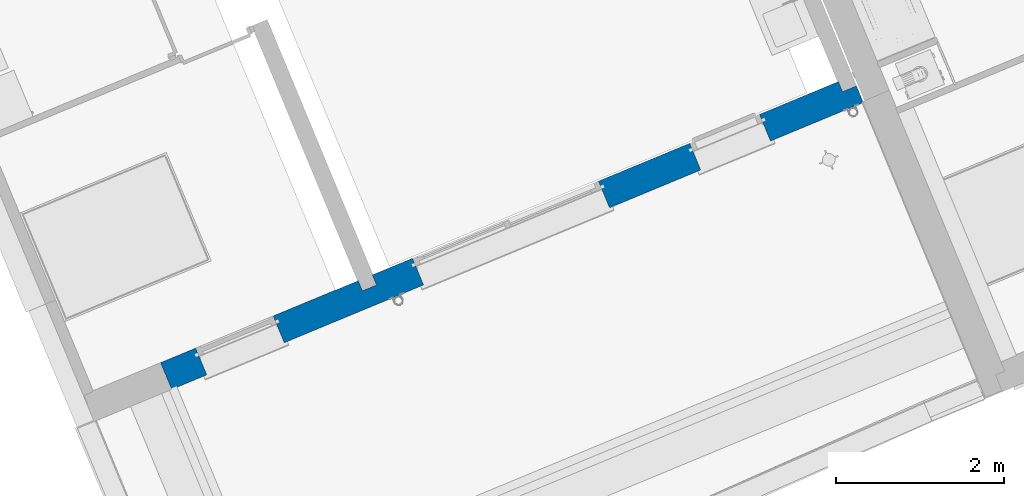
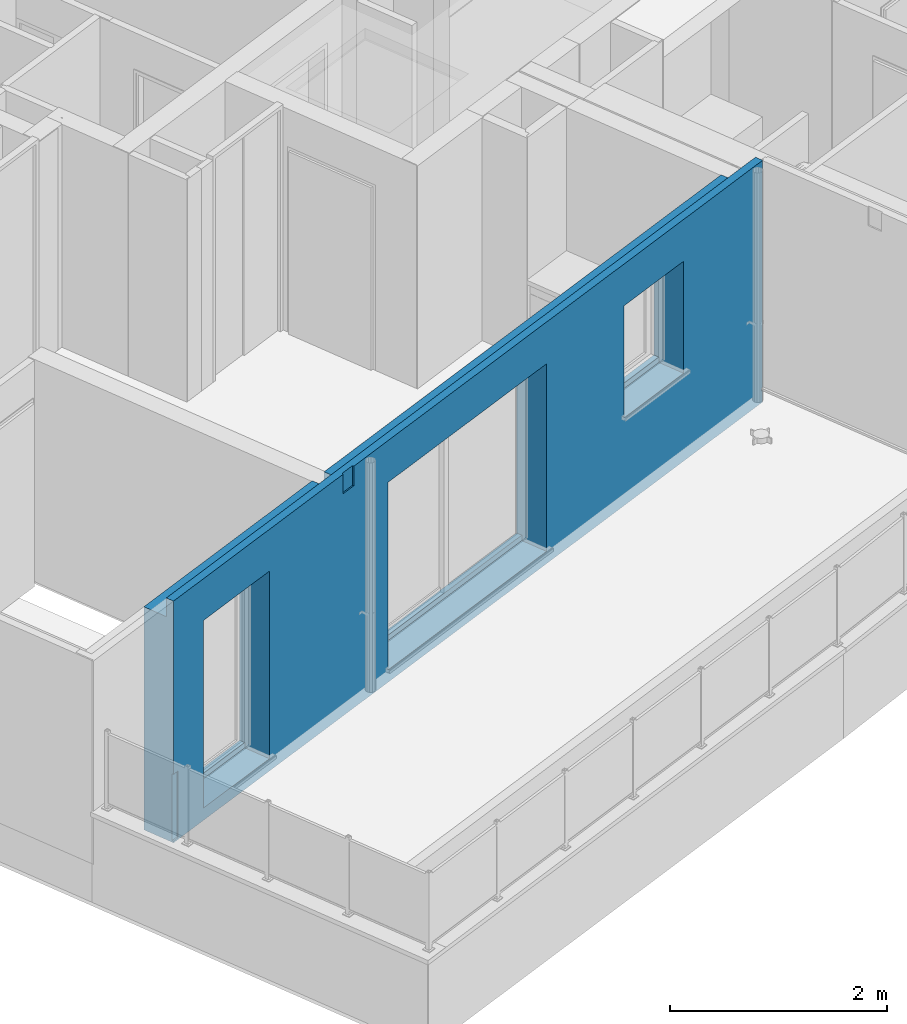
# One storey, part 8 of 119: 1 wall, 3 openings.
"""IFC2X3 building model written with IfcOpenShell, lengths in metres."""

from ifc_helpers import new_model, entity, si_unit, converted_unit, derived_unit, money_unit, direction, frame, origin_with_axes, place, context, subcontext, project, spatial, faceted_brep, material, material_list, type_object, element, save


model = new_model("IFC2X3")

# Units and contexts
model_context = context("Model", 3, precision=1e-05, world=origin_with_axes(), true_north=direction((0.0, 1.0)))
body_context = subcontext(model_context, "Body", "Model", "MODEL_VIEW")
ifc_project = project(units=[si_unit("LENGTHUNIT", "METRE"), si_unit("AREAUNIT", "SQUARE_METRE"), si_unit("VOLUMEUNIT", "CUBIC_METRE"), converted_unit("PLANEANGLEUNIT", "DEGREE", entity("IfcPlaneAngleMeasure", 0.0174532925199), si_unit("PLANEANGLEUNIT", "RADIAN"), dimensions=[0, 0, 0, 0, 0, 0, 0]), si_unit("SOLIDANGLEUNIT", "STERADIAN"), money_unit("EUR"), converted_unit("TIMEUNIT", "Year", entity("IfcTimeMeasure", 31556926.0), si_unit("TIMEUNIT", "SECOND"), dimensions=[0, 0, 1, 0, 0, 0, 0]), si_unit("MASSUNIT", "GRAM", prefix="KILO"), si_unit("THERMODYNAMICTEMPERATUREUNIT", "DEGREE_CELSIUS"), si_unit("LUMINOUSINTENSITYUNIT", "LUMEN"), si_unit("ENERGYUNIT", "JOULE", prefix="MEGA"), derived_unit("THERMALCONDUCTANCEUNIT", [(si_unit("POWERUNIT", "WATT"), 1), (si_unit("LENGTHUNIT", "METRE"), -1), (si_unit("THERMODYNAMICTEMPERATUREUNIT", "KELVIN"), -1)]), derived_unit("SPECIFICHEATCAPACITYUNIT", [(si_unit("ENERGYUNIT", "JOULE"), 1), (si_unit("MASSUNIT", "GRAM", prefix="KILO"), -1), (si_unit("THERMODYNAMICTEMPERATUREUNIT", "KELVIN"), -1)]), derived_unit("MASSDENSITYUNIT", [(si_unit("MASSUNIT", "GRAM", prefix="KILO"), 1), (si_unit("VOLUMEUNIT", "CUBIC_METRE"), -1)])], contexts=[model_context])

# Site, building, storey
site_placement = place(None, origin_with_axes())
site = spatial("IfcSite", under=ifc_project, at=site_placement, Name="Site", CompositionType="ELEMENT")
building_placement = place(site_placement, origin_with_axes())
building = spatial("IfcBuilding", under=site, at=building_placement, Name="Bâtiment", CompositionType="ELEMENT")
storey_placement = place(building_placement, origin_with_axes())
storey = spatial("IfcBuildingStorey", under=building, at=storey_placement, Name="Rez-de-chaussée", CompositionType="ELEMENT", Elevation=0.0)

# Wall, openings
ifc_material_1 = material(Name="Finition int - Plaque de plâtre")
ifc_material_2 = material(Name="Isolation - Polystyrène extrudé")
ifc_material_3 = material(Name="Bloc ELITHERM")
ifc_material_4 = material(Name="Isolation - Polystyrène expansé")
ifc_material_5 = material(Name="Mortier")
ifc_material_6 = material(Name="Béton cellulaire")
ifc_material_7 = material(Name="Finition ext - Crépis")
ifc_material_list = material_list([ifc_material_1, ifc_material_2, ifc_material_3, ifc_material_4, ifc_material_5, ifc_material_6, ifc_material_7])
wall_type = type_object("IfcWallType", Name="Mur ALKERN + planelle 21 345 x 2720", PredefinedType="USERDEFINED")
wall_placement = place(storey_placement, frame((-29.8602136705, -28.1254216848, 0.0), z_axis=(0.0, 0.0, 1.0), x_axis=(0.923701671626, 0.383112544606, 0.0)))
wall = element("IfcWall", 1, at=wall_placement, inside=storey, type_object=wall_type, material=ifc_material_list, Name="Mue bloc ALKERN isolé", ObjectType="SOLIDWALL", context=body_context, shape_type="Brep", body=[
    faceted_brep([(2.55192819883, 0.335000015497, 2.50999999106), (0.0, 0.335000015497, 2.51), (0.0, 0.335000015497, 0.0), (2.55192819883, 0.335000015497, 0.0), (0.453176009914, 0.335000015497, 2.25), (0.453176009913, 0.335000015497, 2.43), (1.45317600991, 0.335000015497, 2.43), (1.45317600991, 0.335000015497, 2.25), (1.45317600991, 0.335000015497, 0.2), (0.453176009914, 0.335000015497, 0.2), (2.55192819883, 0.34499998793, 2.50999999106), (0.0, 0.34499998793, 2.51), (0.0, 0.34499998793, 0.0), (2.55192819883, 0.34499998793, 0.0), (0.453176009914, 0.34499998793, 2.25), (0.453176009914, 0.34499998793, 2.43), (1.45317600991, 0.34499998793, 2.43), (1.45317600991, 0.34499998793, 2.25), (1.45317600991, 0.34499998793, 0.2), (0.453176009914, 0.34499998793, 0.2)], [[[0, 1, 2, 3], [4, 5, 6, 7, 8, 9]], [[10, 11, 1, 0]], [[1, 11, 12, 2]], [[3, 2, 12, 13]], [[0, 3, 13, 10]], [[5, 4, 14, 15]], [[6, 5, 15, 16]], [[7, 6, 16, 17]], [[7, 17, 18, 8]], [[8, 18, 19, 9]], [[14, 4, 9, 19]], [[13, 12, 11, 10], [15, 14, 19, 18, 17, 16]]]),
    faceted_brep([(2.73192819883, 0.335000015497, 0.0), (8.74801659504, 0.335000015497, 0.0), (8.74801659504, 0.335000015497, 2.50999999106), (2.73192819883, 0.335000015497, 2.50999999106), (3.25109434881, 0.335000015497, 2.25), (3.25109434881, 0.335000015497, 2.43), (5.65109434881, 0.335000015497, 2.43), (5.65109434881, 0.335000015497, 2.25), (5.65109434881, 0.335000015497, 0.2), (3.25109434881, 0.335000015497, 0.2), (6.8285215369, 0.335000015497, 2.25), (6.8285215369, 0.335000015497, 2.43), (7.7285215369, 0.335000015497, 2.43), (7.7285215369, 0.335000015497, 2.25), (7.7285215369, 0.335000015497, 1.05), (6.8285215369, 0.335000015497, 1.05), (2.73192819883, 0.34499998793, 0.0), (8.74801659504, 0.34499998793, 0.0), (8.74801659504, 0.34499998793, 2.50999999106), (2.73192819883, 0.34499998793, 2.50999999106), (3.25109434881, 0.34499998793, 2.25), (3.25109434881, 0.34499998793, 2.43), (5.65109434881, 0.34499998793, 2.43), (5.65109434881, 0.34499998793, 2.25), (5.65109434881, 0.34499998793, 0.2), (3.25109434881, 0.34499998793, 0.2), (6.8285215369, 0.34499998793, 2.25), (6.8285215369, 0.34499998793, 2.43), (7.7285215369, 0.34499998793, 2.43), (7.7285215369, 0.34499998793, 2.25), (7.7285215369, 0.34499998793, 1.05), (6.8285215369, 0.34499998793, 1.05)], [[[0, 1, 2, 3], [4, 5, 6, 7, 8, 9], [10, 11, 12, 13, 14, 15]], [[16, 17, 1, 0]], [[17, 18, 2, 1]], [[3, 2, 18, 19]], [[16, 0, 3, 19]], [[20, 21, 5, 4]], [[21, 22, 6, 5]], [[22, 23, 7, 6]], [[24, 8, 7, 23]], [[25, 9, 8, 24]], [[9, 25, 20, 4]], [[11, 10, 26, 27]], [[12, 11, 27, 28]], [[13, 12, 28, 29]], [[13, 29, 30, 14]], [[14, 30, 31, 15]], [[26, 10, 15, 31]], [[19, 18, 17, 16], [21, 20, 25, 24, 23, 22], [27, 26, 31, 30, 29, 28]]]),
    faceted_brep([(1.45317600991, 0.245, 0.2), (1.45317600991, 0.215000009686, 0.2), (1.45317600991, 0.215, 2.25), (1.45317600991, 0.245, 2.25), (1.45317600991, 0.215000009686, 0.14), (1.45317600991, 0.286, 0.2), (1.45317600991, 0.286, 0.14), (0.0, 0.215000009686, 0.0), (2.55192819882, 0.215000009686, 0.0), (2.55192819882, 0.215000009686, 2.50999999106), (0.0, 0.215000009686, 2.51), (0.453176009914, 0.215000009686, 0.14), (0.453176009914, 0.215000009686, 0.2), (0.453176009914, 0.215, 2.25), (0.453176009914, 0.215, 2.43), (1.45317600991, 0.215, 2.43), (1.45317600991, 0.335000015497, 2.43), (1.45317600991, 0.335000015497, 2.25), (1.45317600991, 0.335000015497, 0.2), (0.453176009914, 0.286, 0.2), (0.453176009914, 0.286, 0.14), (0.0, 0.335000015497, 0.0), (2.55192819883, 0.335000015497, 0.0), (2.55192819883, 0.335000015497, 2.50999999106), (0.0, 0.335000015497, 2.51), (0.453176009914, 0.245, 0.2), (0.453176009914, 0.245, 2.25), (0.453176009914, 0.335000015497, 2.25), (0.453176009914, 0.335000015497, 2.43), (0.453176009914, 0.335000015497, 0.2)], [[[0, 1, 2, 3]], [[4, 1, 0, 5, 6]], [[7, 8, 9, 10], [11, 12, 13, 14, 15, 2, 1, 4]], [[16, 17, 3, 2, 15]], [[5, 0, 3, 17, 18]], [[5, 19, 20, 6]], [[11, 4, 6, 20]], [[21, 22, 8, 7]], [[22, 23, 9, 8]], [[10, 9, 23, 24]], [[21, 7, 10, 24]], [[25, 12, 11, 20, 19]], [[12, 25, 26, 13]], [[26, 27, 28, 14, 13]], [[14, 28, 16, 15]], [[24, 23, 22, 21], [18, 17, 16, 28, 27, 29]], [[19, 5, 18, 29]], [[25, 19, 29, 27, 26]]]),
    faceted_brep([(7.7285215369, 0.245, 1.05), (7.7285215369, 0.215000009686, 1.05), (7.7285215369, 0.215, 2.25), (7.7285215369, 0.245, 2.25), (7.7285215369, 0.215000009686, 0.99), (7.7285215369, 0.286, 1.05), (7.7285215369, 0.286, 0.99), (2.73192819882, 0.215000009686, 0.0), (8.74801659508, 0.215000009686, 0.0), (8.74801659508, 0.215000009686, 2.50999999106), (2.73192819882, 0.215000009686, 2.50999999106), (5.65109434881, 0.215, 2.43), (5.65109434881, 0.215, 2.25), (5.65109434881, 0.215000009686, 0.2), (5.65109434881, 0.215000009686, 0.14), (3.25109434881, 0.215000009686, 0.14), (3.25109434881, 0.215000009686, 0.2), (3.25109434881, 0.215, 2.25), (3.25109434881, 0.215, 2.43), (6.8285215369, 0.215000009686, 0.99), (6.8285215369, 0.215000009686, 1.05), (6.8285215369, 0.215, 2.25), (6.8285215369, 0.215, 2.43), (7.7285215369, 0.215, 2.43), (7.7285215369, 0.335000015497, 2.43), (7.7285215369, 0.335000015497, 2.25), (7.7285215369, 0.335000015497, 1.05), (6.8285215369, 0.286, 1.05), (6.8285215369, 0.286, 0.99), (2.73192819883, 0.335000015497, 0.0), (8.74801659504, 0.335000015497, 0.0), (8.74801659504, 0.335000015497, 2.50999999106), (2.73192819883, 0.335000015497, 2.50999999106), (5.65109434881, 0.335000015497, 2.43), (5.65109434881, 0.335000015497, 2.25), (5.65109434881, 0.245, 2.25), (5.65109434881, 0.245, 0.2), (5.65109434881, 0.286, 0.2), (5.65109434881, 0.286, 0.14), (3.25109434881, 0.286, 0.14), (3.25109434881, 0.286, 0.2), (3.25109434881, 0.245, 0.2), (3.25109434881, 0.245, 2.25), (3.25109434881, 0.335000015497, 2.25), (3.25109434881, 0.335000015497, 2.43), (6.8285215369, 0.245, 1.05), (6.8285215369, 0.245, 2.25), (6.8285215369, 0.335000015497, 2.25), (6.8285215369, 0.335000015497, 2.43), (5.65109434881, 0.335000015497, 0.2), (3.25109434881, 0.335000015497, 0.2), (6.8285215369, 0.335000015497, 1.05)], [[[0, 1, 2, 3]], [[4, 1, 0, 5, 6]], [[7, 8, 9, 10], [11, 12, 13, 14, 15, 16, 17, 18], [19, 20, 21, 22, 23, 2, 1, 4]], [[24, 25, 3, 2, 23]], [[5, 0, 3, 25, 26]], [[5, 27, 28, 6]], [[19, 4, 6, 28]], [[29, 30, 8, 7]], [[30, 31, 9, 8]], [[10, 9, 31, 32]], [[29, 7, 10, 32]], [[12, 11, 33, 34, 35]], [[36, 13, 12, 35]], [[37, 38, 14, 13, 36]], [[15, 14, 38, 39]], [[39, 40, 41, 16, 15]], [[16, 41, 42, 17]], [[18, 17, 42, 43, 44]], [[18, 44, 33, 11]], [[45, 20, 19, 28, 27]], [[20, 45, 46, 21]], [[46, 47, 48, 22, 21]], [[22, 48, 24, 23]], [[32, 31, 30, 29], [49, 34, 33, 44, 43, 50], [26, 25, 24, 48, 47, 51]], [[27, 5, 26, 51]], [[34, 49, 37, 36, 35]], [[37, 40, 39, 38]], [[43, 42, 41, 40, 50]], [[45, 27, 51, 47, 46]], [[40, 37, 49, 50]]]),
    faceted_brep([(7.7285215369, 0.214999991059, 1.05), (7.7285215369, 0.015, 1.05), (7.7285215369, 0.015, 2.25), (7.7285215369, 0.214999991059, 2.25), (7.7285215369, 0.015, 0.99), (7.7285215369, 0.214999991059, 0.99), (8.92801657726, 0.015, 2.50999999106), (0.0, 0.015, 2.50999999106), (0.0, 0.015, 0.0), (8.92801657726, 0.015, 0.0), (3.25109434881, 0.015, 0.14), (3.25109434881, 0.015, 0.2), (3.25109434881, 0.015, 2.25), (5.65109434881, 0.015, 2.25), (5.65109434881, 0.015, 0.2), (5.65109434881, 0.015, 0.14), (0.453176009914, 0.015, 0.14), (0.453176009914, 0.015, 0.2), (0.453176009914, 0.015, 2.25), (1.45317600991, 0.015, 2.25), (1.45317600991, 0.015, 0.2), (1.45317600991, 0.015, 0.14), (6.8285215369, 0.015, 0.99), (6.8285215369, 0.015, 1.05), (6.8285215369, 0.015, 2.25), (6.8285215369, 0.214999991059, 2.25), (8.9280165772, 0.214999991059, 0.0), (0.0, 0.214999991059, 0.0), (0.0, 0.214999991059, 2.50999999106), (8.9280165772, 0.214999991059, 2.50999999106), (5.65109434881, 0.214999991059, 0.14), (5.65109434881, 0.214999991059, 0.2), (5.65109434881, 0.214999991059, 2.25), (3.25109434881, 0.214999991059, 2.25), (3.25109434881, 0.214999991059, 0.2), (3.25109434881, 0.214999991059, 0.14), (1.45317600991, 0.214999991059, 0.14), (1.45317600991, 0.214999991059, 0.2), (1.45317600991, 0.214999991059, 2.25), (0.453176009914, 0.214999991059, 2.25), (0.453176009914, 0.214999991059, 0.2), (0.453176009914, 0.214999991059, 0.14), (6.8285215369, 0.214999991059, 1.05), (6.8285215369, 0.214999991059, 0.99), (8.92801657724, 0.0829999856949, 2.50999999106), (0.0, 0.0829999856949, 2.50999999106)], [[[0, 1, 2, 3]], [[4, 1, 0, 5]], [[6, 7, 8, 9], [10, 11, 12, 13, 14, 15], [16, 17, 18, 19, 20, 21], [22, 23, 24, 2, 1, 4]], [[24, 25, 3, 2]], [[26, 27, 28, 29], [30, 31, 32, 33, 34, 35], [36, 37, 38, 39, 40, 41], [5, 0, 3, 25, 42, 43]], [[22, 4, 5, 43]], [[44, 45, 7, 6]], [[7, 45, 28, 27, 8]], [[9, 8, 27, 26]], [[6, 9, 26, 29, 44]], [[34, 11, 10, 35]], [[11, 34, 33, 12]], [[12, 33, 32, 13]], [[31, 14, 13, 32]], [[15, 14, 31, 30]], [[10, 15, 30, 35]], [[16, 41, 40, 17]], [[39, 18, 17, 40]], [[38, 19, 18, 39]], [[19, 38, 37, 20]], [[37, 36, 21, 20]], [[36, 41, 16, 21]], [[42, 23, 22, 43]], [[23, 42, 25, 24]], [[29, 28, 45, 44]]]),
    faceted_brep([(0.0, 0.0630000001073, 2.72), (0.0, 0.0630000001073, 2.51999999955), (8.92801659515, 0.0630000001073, 2.51999998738), (8.92801659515, 0.0630000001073, 2.72000000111), (0.0, 0.083000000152, 2.72), (0.0, 0.083000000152, 2.51999999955), (8.92801659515, 0.0829999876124, 2.51999998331), (8.92801659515, 0.0829999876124, 2.72000000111)], [[[0, 1, 2, 3]], [[4, 5, 1, 0]], [[1, 5, 6, 2]], [[2, 6, 7, 3]], [[4, 0, 3, 7]], [[5, 4, 7, 6]]]),
    faceted_brep([(8.92801657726, 0.015, 2.51), (8.92801657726, 0.015, 2.52), (0.0, 0.015, 2.52), (0.0, 0.015, 2.51), (8.92801657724, 0.083, 2.52), (8.92801657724, 0.083, 2.51), (0.0, 0.083, 2.52), (0.0, 0.083, 2.51)], [[[0, 1, 2, 3]], [[4, 1, 0, 5]], [[1, 4, 6, 2]], [[2, 6, 7, 3]], [[5, 0, 3, 7]], [[4, 5, 7, 6]]]),
    faceted_brep([(8.92801659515, 0.015, 2.51999999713), (8.92801659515, 0.015, 2.72000000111), (0.0, 0.015, 2.72), (0.0, 0.015, 2.51999999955), (8.92801659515, 0.0629999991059, 2.72000000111), (8.92801659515, 0.0629999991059, 2.51999998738), (0.0, 0.0629999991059, 2.72), (0.0, 0.0629999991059, 2.51999999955)], [[[0, 1, 2, 3]], [[4, 1, 0, 5]], [[1, 4, 6, 2]], [[6, 7, 3, 2]], [[5, 0, 3, 7]], [[4, 5, 7, 6]]]),
    faceted_brep([(7.7285215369, 0.0149999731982, 1.05), (7.7285215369, 0.0, 1.05), (7.7285215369, 0.0, 2.25), (7.7285215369, 0.0149999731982, 2.25), (7.7285215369, 1.34424027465e-10, 0.99), (7.7285215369, 0.0149999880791, 0.99), (2.571928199, 0.0, 2.50872065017), (2.571928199, 0.0, 2.50999999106), (2.571928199, 0.0, 2.51999999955), (2.571928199, 1.34420474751e-10, 2.72), (0.0, 0.0, 2.72), (0.0, 0.0, 0.77), (0.0698842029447, 0.0, 0.77), (0.0698842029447, 0.0, 0.02), (0.0, 0.0, 0.02), (0.0, 0.0, 0.0), (8.92801657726, 0.0, 0.0), (8.92801659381, 0.0, 0.133633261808), (8.9128114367, 0.0, 0.133633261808), (8.91157733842, 0.0, 0.133633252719), (8.91157733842, 0.0, 0.160000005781), (8.91157733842, 0.0, 0.162931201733), (8.92801659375, 0.0, 0.167808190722), (8.92801657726, 4.66625849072e-10, 2.52), (8.92801659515, 4.66624072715e-10, 2.72000000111), (2.731928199, 1.42783562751e-10, 2.72), (2.731928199, 0.0, 2.51999999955), (2.731928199, 0.0, 2.50999999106), (2.731928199, 0.0, 2.50872065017), (2.731928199, 0.0, 2.5), (2.60666918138, 0.0, 2.5), (2.586928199, 0.0, 2.5), (2.571928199, 0.0, 2.5), (3.25109434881, 0.0, 0.14), (3.25109434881, 4.66624072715e-10, 0.2), (3.25109434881, 4.66624072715e-10, 2.25), (5.65109434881, 4.66618743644e-10, 2.25), (5.65109434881, 4.66620520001e-10, 0.2), (5.65109434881, 0.0, 0.14), (0.453176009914, 0.0, 0.14), (0.453176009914, 0.0, 0.2), (0.453176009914, 0.0, 2.25), (1.45317600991, 0.0, 2.25), (1.45317600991, 0.0, 0.2), (1.45317600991, 0.0, 0.14), (6.8285215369, 1.34422251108e-10, 0.99), (6.8285215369, 0.0, 1.05), (6.8285215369, 0.0, 2.25), (6.8285215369, 0.0149999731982, 2.25), (8.9128114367, 0.0149999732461, 0.133633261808), (8.9280165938, 0.0149999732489, 0.133633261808), (8.92801657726, 0.0149999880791, 0.0), (0.0, 0.0149999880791, 0.0), (0.0, 0.0149999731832, 0.02), (0.0698842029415, 0.0149999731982, 0.02), (0.0698842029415, 0.0149999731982, 0.77), (0.0, 0.0149999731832, 0.77), (0.0, 0.0149999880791, 2.72), (2.57192819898, 0.0149999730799, 2.72), (2.57192819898, 0.0149999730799, 2.51999999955), (2.57192819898, 0.0149999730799, 2.50999999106), (2.57192819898, 0.0149999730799, 2.50872065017), (2.57192819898, 0.0149999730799, 2.5), (2.58692819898, 0.0149999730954, 2.5), (2.60666918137, 0.0149999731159, 2.5), (2.73192819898, 0.0149999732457, 2.5), (2.73192819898, 0.0149999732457, 2.50872065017), (2.73192819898, 0.0149999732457, 2.50999999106), (2.73192819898, 0.0149999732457, 2.51999999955), (2.73192819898, 0.0149999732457, 2.72), (8.92801659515, 0.0149999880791, 2.72000000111), (8.92801657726, 0.0149999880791, 2.52), (8.92801659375, 0.0149999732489, 0.167808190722), (8.91157733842, 0.0149999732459, 0.162931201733), (8.91157733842, 0.0149999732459, 0.160000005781), (8.91157733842, 0.0149999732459, 0.133633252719), (5.65109434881, 0.0149999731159, 0.14), (5.65109434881, 0.0149999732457, 0.2), (5.65109434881, 0.0149999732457, 2.25), (3.25109434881, 0.0149999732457, 2.25), (3.25109434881, 0.0149999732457, 0.2), (3.25109434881, 0.0149999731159, 0.14), (1.45317600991, 0.0149999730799, 0.14), (1.45317600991, 0.0149999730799, 0.2), (1.45317600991, 0.0149999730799, 2.25), (0.453176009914, 0.0149999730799, 2.25), (0.453176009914, 0.0149999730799, 0.2), (0.453176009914, 0.0149999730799, 0.14), (6.8285215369, 0.0149999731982, 1.05), (6.8285215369, 0.0149999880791, 0.99)], [[[0, 1, 2, 3]], [[4, 1, 0, 5]], [[6, 7, 8, 9, 10, 11, 12, 13, 14, 15, 16, 17, 18, 19, 20, 21, 22, 23, 24, 25, 26, 27, 28, 29, 30, 31, 32], [33, 34, 35, 36, 37, 38], [39, 40, 41, 42, 43, 44], [45, 46, 47, 2, 1, 4]], [[47, 48, 3, 2]], [[49, 50, 51, 52, 53, 54, 55, 56, 57, 58, 59, 60, 61, 62, 63, 64, 65, 66, 67, 68, 69, 70, 71, 72, 73, 74, 75], [76, 77, 78, 79, 80, 81], [82, 83, 84, 85, 86, 87], [5, 0, 3, 48, 88, 89]], [[45, 4, 5, 89]], [[7, 6, 61, 60]], [[8, 7, 60, 59]], [[9, 8, 59, 58]], [[58, 57, 10, 9]], [[11, 10, 57, 56]], [[11, 56, 55, 12]], [[12, 55, 54, 13]], [[13, 54, 53, 14]], [[53, 52, 15, 14]], [[51, 16, 15, 52]], [[17, 16, 51, 50]], [[17, 50, 49, 18]], [[49, 75, 19, 18]], [[20, 19, 75, 74]], [[20, 74, 73, 21]], [[22, 21, 73, 72]], [[72, 71, 23, 22]], [[23, 71, 70, 24]], [[25, 24, 70, 69]], [[25, 69, 68, 26]], [[68, 67, 27, 26]], [[67, 66, 28, 27]], [[66, 65, 29, 28]], [[30, 29, 65, 64]], [[31, 30, 64, 63]], [[31, 63, 62, 32]], [[6, 32, 62, 61]], [[80, 34, 33, 81]], [[34, 80, 79, 35]], [[35, 79, 78, 36]], [[77, 37, 36, 78]], [[38, 37, 77, 76]], [[33, 38, 76, 81]], [[39, 87, 86, 40]], [[85, 41, 40, 86]], [[84, 42, 41, 85]], [[42, 84, 83, 43]], [[83, 82, 44, 43]], [[82, 87, 39, 44]], [[88, 46, 45, 89]], [[46, 88, 48, 47]]]),
])
opening_1_placement = place(wall_placement, frame((4.45109434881, 0.0, 0.2), z_axis=(0.0, 0.0, 1.0), x_axis=(1.0, 0.0, 0.0)))
element("IfcOpeningElement", 2, at=opening_1_placement, cuts=wall, Name="MEN 23", context=body_context, shape_type="Brep", body=[
    faceted_brep([(1.2, 0.245, 0.0), (-1.2, 0.245, 0.0), (-1.2, 0.83499998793, 0.0), (1.2, 0.83499998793, 0.0), (1.2, 0.245, 2.05), (-1.2, 0.245, 2.05), (-1.2, 0.83499998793, 2.05), (1.2, 0.83499998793, 2.05)], [[[0, 1, 2, 3]], [[0, 4, 5, 1]], [[1, 5, 6, 2]], [[3, 2, 6, 7]], [[4, 0, 3, 7]], [[5, 4, 7, 6]]]),
    faceted_brep([(1.2, 0.245, 0.0), (1.2, 0.245, 2.05), (1.2, -0.34499998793, 2.05), (1.2, -0.34499998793, 0.0), (-1.2, 0.245, 0.0), (-1.2, 0.245, 2.05), (-1.2, -0.34499998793, 2.05), (-1.2, -0.34499998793, 0.0)], [[[0, 1, 2, 3]], [[0, 4, 5, 1]], [[1, 5, 6, 2]], [[3, 2, 6, 7]], [[4, 0, 3, 7]], [[5, 4, 7, 6]]]),
    faceted_brep([(1.2, 0.245, 0.0), (1.2, 0.245, 2.05), (1.2, -0.34499998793, 2.05), (1.2, -0.34499998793, 0.0), (-1.2, 0.245, 0.0), (-1.2, 0.245, 2.05), (-1.2, -0.34499998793, 2.05), (-1.2, -0.34499998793, 0.0)], [[[0, 1, 2, 3]], [[0, 4, 5, 1]], [[1, 5, 6, 2]], [[3, 2, 6, 7]], [[4, 0, 3, 7]], [[5, 4, 7, 6]]]),
    faceted_brep([(1.2, 0.215, 2.05), (-1.2, 0.215, 2.05), (-1.2, 0.80499998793, 2.05), (1.2, 0.80499998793, 2.05), (1.2, 0.215, 2.23), (-1.2, 0.215, 2.23), (-1.2, 0.80499998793, 2.23), (1.2, 0.80499998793, 2.23)], [[[0, 1, 2, 3]], [[0, 4, 5, 1]], [[1, 5, 6, 2]], [[3, 2, 6, 7]], [[4, 0, 3, 7]], [[5, 4, 7, 6]]]),
    faceted_brep([(1.2, 0.286, 0.0), (-1.2, 0.286, 0.0), (-1.2, -0.30399998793, 0.0), (1.2, -0.30399998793, 0.0), (1.2, 0.286, -0.06), (-1.2, 0.286, -0.06), (-1.2, -0.30399998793, -0.06), (1.2, -0.30399998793, -0.06)], [[[0, 1, 2, 3]], [[0, 4, 5, 1]], [[1, 5, 6, 2]], [[3, 2, 6, 7]], [[4, 0, 3, 7]], [[5, 4, 7, 6]]]),
])
opening_2_placement = place(wall_placement, frame((0.953176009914, 0.0, 0.2), z_axis=(0.0, 0.0, 1.0), x_axis=(1.0, 0.0, 0.0)))
element("IfcOpeningElement", 3, at=opening_2_placement, cuts=wall, Name="MEN 22", context=body_context, shape_type="Brep", body=[
    faceted_brep([(-0.5, 0.83499998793, 0.0), (0.5, 0.83499998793, 0.0), (0.5, 0.245, 0.0), (-0.5, 0.245, 0.0), (-0.5, 0.83499998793, 2.05), (0.5, 0.83499998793, 2.05), (0.5, 0.245, 2.05), (-0.5, 0.245, 2.05)], [[[0, 1, 2, 3]], [[0, 4, 5, 1]], [[1, 5, 6, 2]], [[3, 2, 6, 7]], [[4, 0, 3, 7]], [[5, 4, 7, 6]]]),
    faceted_brep([(-0.5, -0.34499998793, 0.0), (-0.5, -0.34499998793, 2.05), (-0.5, 0.245, 2.05), (-0.5, 0.245, 0.0), (0.5, -0.34499998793, 0.0), (0.5, -0.34499998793, 2.05), (0.5, 0.245, 2.05), (0.5, 0.245, 0.0)], [[[0, 1, 2, 3]], [[0, 4, 5, 1]], [[1, 5, 6, 2]], [[3, 2, 6, 7]], [[4, 0, 3, 7]], [[5, 4, 7, 6]]]),
    faceted_brep([(-0.5, -0.34499998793, 0.0), (-0.5, -0.34499998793, 2.05), (-0.5, 0.245, 2.05), (-0.5, 0.245, 0.0), (0.5, -0.34499998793, 0.0), (0.5, -0.34499998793, 2.05), (0.5, 0.245, 2.05), (0.5, 0.245, 0.0)], [[[0, 1, 2, 3]], [[0, 4, 5, 1]], [[1, 5, 6, 2]], [[3, 2, 6, 7]], [[4, 0, 3, 7]], [[5, 4, 7, 6]]]),
    faceted_brep([(-0.5, 0.80499998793, 2.05), (0.5, 0.80499998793, 2.05), (0.5, 0.215, 2.05), (-0.5, 0.215, 2.05), (-0.5, 0.80499998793, 2.23), (0.5, 0.80499998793, 2.23), (0.5, 0.215, 2.23), (-0.5, 0.215, 2.23)], [[[0, 1, 2, 3]], [[0, 4, 5, 1]], [[1, 5, 6, 2]], [[3, 2, 6, 7]], [[4, 0, 3, 7]], [[5, 4, 7, 6]]]),
    faceted_brep([(-0.5, -0.30399998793, 0.0), (0.5, -0.30399998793, 0.0), (0.5, 0.286, 0.0), (-0.5, 0.286, 0.0), (-0.5, -0.30399998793, -0.06), (0.5, -0.30399998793, -0.06), (0.5, 0.286, -0.06), (-0.5, 0.286, -0.06)], [[[0, 1, 2, 3]], [[0, 4, 5, 1]], [[1, 5, 6, 2]], [[3, 2, 6, 7]], [[4, 0, 3, 7]], [[5, 4, 7, 6]]]),
])
opening_3_placement = place(wall_placement, frame((7.2785215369, 0.0, 1.05), z_axis=(0.0, 0.0, 1.0), x_axis=(1.0, 0.0, 0.0)))
element("IfcOpeningElement", 4, at=opening_3_placement, cuts=wall, Name="MEN 24", context=body_context, shape_type="Brep", body=[
    faceted_brep([(-0.45, 0.83499998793, 0.0), (0.45, 0.83499998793, 0.0), (0.45, 0.245, 0.0), (-0.45, 0.245, 0.0), (-0.45, 0.83499998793, 1.2), (0.45, 0.83499998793, 1.2), (0.45, 0.245, 1.2), (-0.45, 0.245, 1.2)], [[[0, 1, 2, 3]], [[0, 4, 5, 1]], [[1, 5, 6, 2]], [[3, 2, 6, 7]], [[4, 0, 3, 7]], [[5, 4, 7, 6]]]),
    faceted_brep([(-0.45, -0.34499998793, 0.0), (-0.45, -0.34499998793, 1.2), (-0.45, 0.245, 1.2), (-0.45, 0.245, 0.0), (0.45, -0.34499998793, 0.0), (0.45, -0.34499998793, 1.2), (0.45, 0.245, 1.2), (0.45, 0.245, 0.0)], [[[0, 1, 2, 3]], [[0, 4, 5, 1]], [[1, 5, 6, 2]], [[3, 2, 6, 7]], [[4, 0, 3, 7]], [[5, 4, 7, 6]]]),
    faceted_brep([(-0.45, -0.34499998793, 0.0), (-0.45, -0.34499998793, 1.2), (-0.45, 0.245, 1.2), (-0.45, 0.245, 0.0), (0.45, -0.34499998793, 0.0), (0.45, -0.34499998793, 1.2), (0.45, 0.245, 1.2), (0.45, 0.245, 0.0)], [[[0, 1, 2, 3]], [[0, 4, 5, 1]], [[1, 5, 6, 2]], [[3, 2, 6, 7]], [[4, 0, 3, 7]], [[5, 4, 7, 6]]]),
    faceted_brep([(-0.45, 0.80499998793, 1.2), (0.45, 0.80499998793, 1.2), (0.45, 0.215, 1.2), (-0.45, 0.215, 1.2), (-0.45, 0.80499998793, 1.38), (0.45, 0.80499998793, 1.38), (0.45, 0.215, 1.38), (-0.45, 0.215, 1.38)], [[[0, 1, 2, 3]], [[0, 4, 5, 1]], [[1, 5, 6, 2]], [[3, 2, 6, 7]], [[4, 0, 3, 7]], [[5, 4, 7, 6]]]),
    faceted_brep([(-0.45, -0.30399998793, 0.0), (0.45, -0.30399998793, 0.0), (0.45, 0.286, 0.0), (-0.45, 0.286, 0.0), (-0.45, -0.30399998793, -0.06), (0.45, -0.30399998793, -0.06), (0.45, 0.286, -0.06), (-0.45, 0.286, -0.06)], [[[0, 1, 2, 3]], [[0, 4, 5, 1]], [[1, 5, 6, 2]], [[3, 2, 6, 7]], [[4, 0, 3, 7]], [[5, 4, 7, 6]]]),
])

save(model, "model.ifc")
